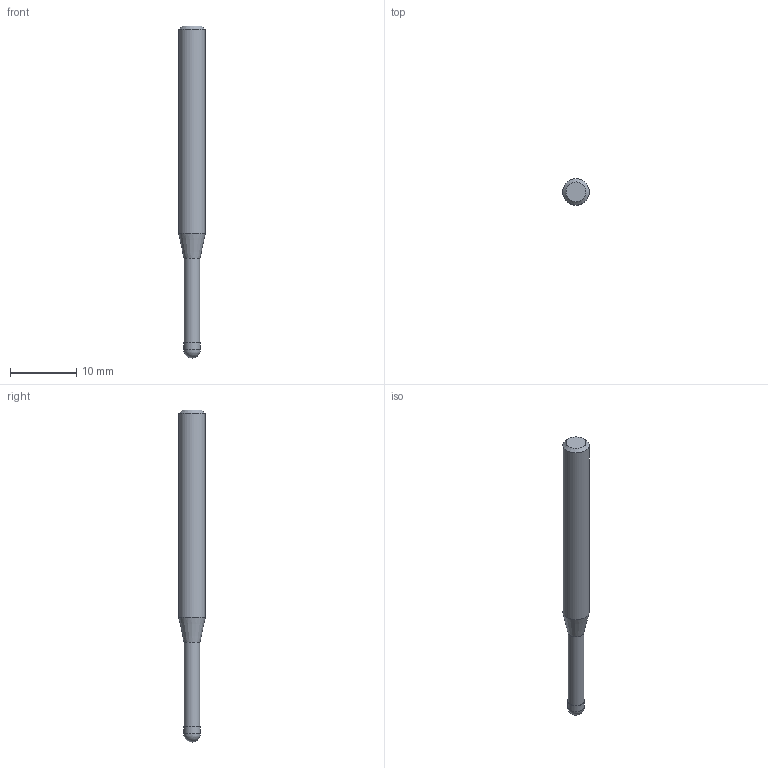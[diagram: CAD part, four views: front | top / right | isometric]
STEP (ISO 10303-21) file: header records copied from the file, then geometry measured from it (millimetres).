
FILE_DESCRIPTION((''),'2;1');
FILE_NAME('C:\Users\nsx150\AppData\Local\Temp\Mastercam 2021\ARV7HD45SN\TEMP.step','2023-06-13T16:38:11',(''),(''),'STEP Write','Mastercam 2021 ... CNC Software, Inc.','');
FILE_SCHEMA(('AUTOMOTIVE_DESIGN'));
Length unit declared in the file: millimetre
Products named in the file (1): None
Bounding box: 4 x 4 x 50 mm (x, y, z)
Volume: 488.7 mm3; surface area: 563 mm2
Topology: 2 solids, 2 shells, 9 faces, 14 edges, 8 vertices
Faces by surface type: plane 3, cylinder 3, cone 2, sphere 1
Full cylindrical faces by diameter (mm): 2.4 x1, 2.5 x1, 4 x1
Entity records: 211 total; most frequent: DIRECTION 36, CARTESIAN_POINT 25, AXIS2_PLACEMENT_3D 18, ORIENTED_EDGE 14, EDGE_LOOP 14, STYLED_ITEM 12, ADVANCED_FACE 9, FACE_BOUND 8
